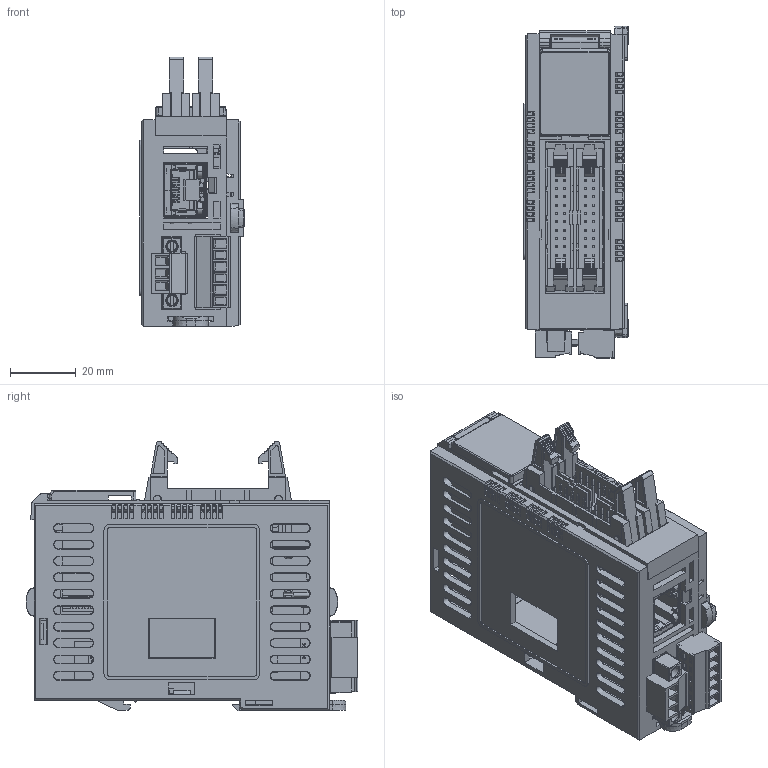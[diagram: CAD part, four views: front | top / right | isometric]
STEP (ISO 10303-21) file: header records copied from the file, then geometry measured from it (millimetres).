
FILE_DESCRIPTION (( 'STEP AP214' ), '1' );
FILE_NAME ('CM3-SP32MDTF-SD(MDCF-SD)_目池磐 器窃.STEP', '2025-10-20T04:57:52', ( '' ), ( '' ), 'SwSTEP 2.0', 'SolidWorks 2024', '' );
FILE_SCHEMA (( 'AUTOMOTIVE_DESIGN' ));
Products named in the file (1): CM3-SP32MDTF-SD(MDCF-SD)_커넥터 포함
Bounding box: 31.7 x 101.12 x 82.25 mm (x, y, z)
Volume: 50546.6 mm3; surface area: 70234 mm2
Topology: 1 solids, 14 shells, 8750 faces, 25134 edges, 16320 vertices
Faces by surface type: plane 7155, cylinder 1266, bspline 196, torus 62, cone 59, sphere 12
Full cylindrical faces by diameter (mm): 2 x8, 2.87 x4, 2.95 x10, 3.85 x4
Entity records: 292565 total; most frequent: CARTESIAN_POINT 66160, ORIENTED_EDGE 50092, DIRECTION 42504, EDGE_CURVE 25046, VECTOR 20550, LINE 20550, VERTEX_POINT 16290, AXIS2_PLACEMENT_3D 10977
